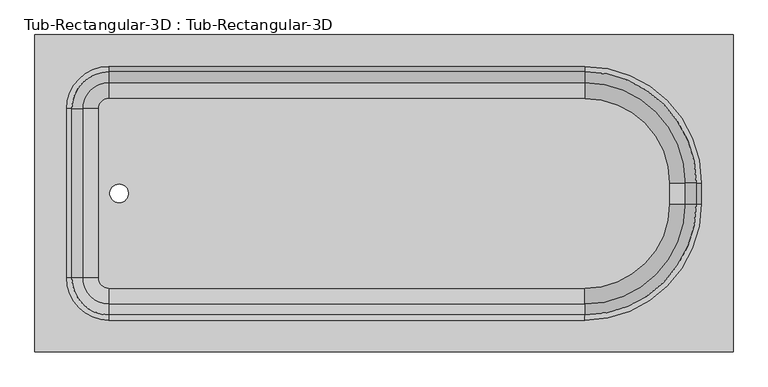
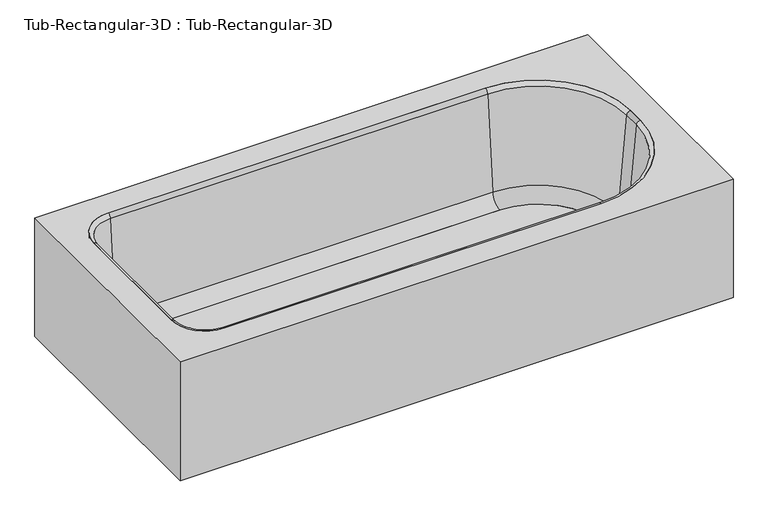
"""IFC4 building model written with IfcOpenShell, lengths in millimetres: flow terminal geometry, Tub-Rectangular-3D : Tub-Rectangular-3D."""

from ifc_helpers import new_model, si_unit, point, frame, frame_2d, origin, place, context, project, spatial, polyline, circle_curve, ellipse_curve, trimmed, segment, composite_curve, outline, extrude, source, transform, mapped, element, save
from ifc_brep_helpers import plane_surface, cylinder_surface, revolved_surface, advanced_brep


def tub_rectangular_3d_tub_rectangular_3d_2253513b(model_context):
    return source(origin(), model_context, "Body", "SolidModel", [
        advanced_brep(
        [(565.7970313, -859.0, 381.0), (565.7970313, -97.0, 381.0), (-1110.6029687, -97.0, 381.0), (-1110.6029687, -859.0, 381.0), (-932.8029687, -782.8, 381.0), (-1034.4029687, -681.2, 381.0), (-1034.4029687, -274.8, 381.0), (-932.8029687, -173.2, 381.0), (210.1970313, -173.2, 381.0), (489.5970313, -452.6, 381.0), (489.5970313, -503.4, 381.0), (210.1970313, -782.8, 381.0), (546.7470313, -839.95, 361.95), (-1091.5529687, -839.95, 361.95), (-1091.5529687, -116.05, 361.95), (546.7470313, -116.05, 361.95), (-932.8029687, -782.8, 361.95), (210.1970313, -782.8, 361.95), (489.5970313, -503.4, 361.95), (489.5970313, -452.6, 361.95), (210.1970313, -173.2, 361.95), (-932.8029687, -173.2, 361.95), (-1034.4029687, -274.8, 361.95), (-1034.4029687, -681.2, 361.95), (-1110.6029687, -859.0, 0.0), (565.7970313, -859.0, 0.0), (-1110.6029687, -97.0, 0.0), (565.7970313, -97.0, 0.0), (546.7470313, -839.95, 0.0), (546.7470313, -116.05, 0.0), (-1091.5529687, -116.05, 0.0), (-1091.5529687, -839.95, 0.0)],
        [
            (0, 1),
            (1, 2),
            (2, 3),
            (3, 0),
            (4, 5, circle_curve(frame((-932.8029687, -681.2, 381.0), z_axis=(0.0, 0.0, -1.0), x_axis=(0.0, -1.0, 0.0)), 101.6)),
            (5, 6),
            (6, 7, circle_curve(frame((-932.8029687, -274.8, 381.0), z_axis=(0.0, 0.0, -1.0), x_axis=(0.0, -1.0, 0.0)), 101.6)),
            (7, 8),
            (8, 9, circle_curve(frame((210.1970313, -452.6, 381.0), z_axis=(0.0, 0.0, -1.0), x_axis=(0.0, -1.0, 0.0)), 279.4)),
            (9, 10),
            (10, 11, circle_curve(frame((210.1970313, -503.4, 381.0), z_axis=(0.0, 0.0, -1.0), x_axis=(0.0, -1.0, 0.0)), 279.4)),
            (11, 4),
            (12, 13),
            (13, 14),
            (14, 15),
            (15, 12),
            (16, 17),
            (17, 18, circle_curve(frame((210.1970313, -503.4, 361.95), z_axis=(0.0, 0.0, 1.0), x_axis=(0.0, -1.0, 0.0)), 279.4)),
            (18, 19),
            (19, 20, circle_curve(frame((210.1970313, -452.6, 361.95), z_axis=(0.0, 0.0, 1.0), x_axis=(0.0, -1.0, 0.0)), 279.4)),
            (20, 21),
            (21, 22, circle_curve(frame((-932.8029687, -274.8, 361.95), z_axis=(0.0, 0.0, 1.0), x_axis=(0.0, -1.0, 0.0)), 101.6)),
            (22, 23),
            (23, 16, circle_curve(frame((-932.8029687, -681.2, 361.95), z_axis=(0.0, 0.0, 1.0), x_axis=(0.0, -1.0, 0.0)), 101.6)),
            (3, 24),
            (24, 25),
            (25, 0),
            (2, 26),
            (26, 24),
            (1, 27),
            (27, 26),
            (25, 27),
            (11, 17),
            (16, 4),
            (10, 18),
            (9, 19),
            (8, 20),
            (7, 21),
            (6, 22),
            (5, 23),
            (28, 29),
            (29, 30),
            (30, 31),
            (31, 28),
            (28, 12),
            (15, 29),
            (14, 30),
            (13, 31),
        ],
        [
            plane_surface(frame((-1110.6029687, -859.0, 381.0), z_axis=(0.0, 0.0, 1.0), x_axis=(-1.0, 0.0, 0.0))),
            plane_surface(frame((-1110.6029687, -859.0, 361.95), z_axis=(0.0, 0.0, -1.0), x_axis=(1.0, 0.0, 0.0))),
            plane_surface(frame((565.7970313, -859.0, 381.0), z_axis=(0.0, -1.0, 0.0), x_axis=(0.0, 0.0, -1.0))),
            plane_surface(frame((-1110.6029687, -859.0, 381.0), z_axis=(-1.0, 0.0, 0.0), x_axis=(0.0, 0.0, -1.0))),
            plane_surface(frame((-1110.6029687, -97.0, 381.0), z_axis=(0.0, 1.0, 0.0), x_axis=(0.0, 0.0, -1.0))),
            plane_surface(frame((565.7970313, -97.0, 381.0), z_axis=(1.0, 0.0, 0.0), x_axis=(0.0, 0.0, -1.0))),
            plane_surface(frame((-932.8029687, -782.8, 381.0), z_axis=(0.0, 1.0, 0.0), x_axis=(0.0, 0.0, -1.0))),
            revolved_surface(polyline([(210.1970313, -782.8, 361.95), (210.1970313, -782.8, 381.0)]), (210.1970313, -503.4, 381.0), (0.0, 0.0, -1.0)),
            plane_surface(frame((489.5970313, -503.4, 381.0), z_axis=(-1.0, 0.0, 0.0), x_axis=(0.0, 0.0, -1.0))),
            revolved_surface(polyline([(210.1970313, -732.0, 361.95), (210.1970313, -732.0, 381.0)]), (210.1970313, -452.6, 381.0), (0.0, 0.0, -1.0)),
            plane_surface(frame((210.1970313, -173.2, 381.0), z_axis=(0.0, -1.0, 0.0), x_axis=(0.0, 0.0, -1.0))),
            revolved_surface(polyline([(-932.8029687, -376.4, 361.95), (-932.8029687, -376.4, 381.0)]), (-932.8029687, -274.8, 381.0), (0.0, 0.0, -1.0)),
            plane_surface(frame((-1034.4029687, -274.8, 381.0), z_axis=(1.0, 0.0, 0.0), x_axis=(0.0, 0.0, -1.0))),
            revolved_surface(polyline([(-932.8029687, -782.8000000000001, 361.95), (-932.8029687, -782.8000000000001, 381.0)]), (-932.8029687, -681.2, 381.0), (0.0, 0.0, -1.0)),
            plane_surface(frame((-1110.6029687, -859.0, 0.0), z_axis=(0.0, 0.0, -1.0), x_axis=(1.0, 0.0, 0.0))),
            plane_surface(frame((546.7470313, -839.95, 361.95), z_axis=(-1.0, 0.0, 0.0), x_axis=(0.0, 0.0, -1.0))),
            plane_surface(frame((546.7470313, -116.05, 361.95), z_axis=(0.0, -1.0, 0.0), x_axis=(0.0, 0.0, -1.0))),
            plane_surface(frame((-1091.5529687, -116.05, 361.95), z_axis=(1.0, 0.0, 0.0), x_axis=(0.0, 0.0, -1.0))),
            plane_surface(frame((-1091.5529687, -839.95, 361.95), z_axis=(0.0, 1.0, 0.0), x_axis=(0.0, 0.0, -1.0))),
        ],
        [
            (0, [[1, 2, 3, 4], [5, 6, 7, 8, 9, 10, 11, 12]]),
            (1, [[13, 14, 15, 16], [17, 18, 19, 20, 21, 22, 23, 24]]),
            (2, [[25, 26, 27, -4]]),
            (3, [[28, 29, -25, -3]]),
            (4, [[30, 31, -28, -2]]),
            (5, [[32, -30, -1, -27]]),
            (6, [[33, -17, 34, -12]]),
            (7, [[35, -18, -33, -11]]),
            (8, [[36, -19, -35, -10]]),
            (9, [[37, -20, -36, -9]]),
            (10, [[38, -21, -37, -8]]),
            (11, [[39, -22, -38, -7]]),
            (12, [[40, -23, -39, -6]]),
            (13, [[-34, -24, -40, -5]]),
            (14, [[-26, -29, -31, -32], [41, 42, 43, 44]]),
            (15, [[45, -16, 46, -41]]),
            (16, [[-46, -15, 47, -42]]),
            (17, [[-47, -14, 48, -43]]),
            (18, [[-48, -13, -45, -44]]),
        ],
    ),
        extrude(outline(composite_curve([segment(polyline([(210.1970313, -706.1964741), (-932.8029687, -706.1964741)]), True, "CONTINUOUS"), segment(trimmed(circle_curve(frame_2d((-932.8029687, -681.2)), 24.9964741), [point((-932.8029687, -706.1964741))], [point((-957.7994428, -681.2))], False, "CARTESIAN"), True, "CONTINUOUS"), segment(polyline([(-957.7994428, -681.2), (-957.7994428, -274.8)]), True, "CONTINUOUS"), segment(trimmed(circle_curve(frame_2d((-932.8029687, -274.8)), 24.9964741), [point((-957.7994428, -274.8))], [point((-932.8029687, -249.8035259))], False, "CARTESIAN"), True, "CONTINUOUS"), segment(polyline([(-932.8029687, -249.8035259), (210.1970313, -249.8035259)]), True, "CONTINUOUS"), segment(trimmed(circle_curve(frame_2d((210.1970313, -452.6)), 202.7964741), [point((210.1970313, -249.8035259))], [point((412.9935054, -452.6))], False, "CARTESIAN"), True, "CONTINUOUS"), segment(polyline([(412.9935054, -452.6), (412.9935054, -503.4)]), True, "CONTINUOUS"), segment(trimmed(circle_curve(frame_2d((210.1970313, -503.4)), 202.7964741), [point((412.9935054, -503.4))], [point((210.1970313, -706.1964741))], False, "CARTESIAN"), True, "CONTINUOUS")], self_intersect=False), holes=[composite_curve([segment(trimmed(circle_curve(frame_2d((-908.510206, -478.0)), 22.225), [point((-908.510206, -500.225))], [point((-908.510206, -455.775))], True, "CARTESIAN"), True, "CONTINUOUS"), segment(trimmed(circle_curve(frame_2d((-908.510206, -478.0)), 22.225), [point((-908.510206, -455.775))], [point((-908.510206, -500.225))], True, "CARTESIAN"), True, "CONTINUOUS")], self_intersect=False)]), frame((0.0, 0.0, 16.863573), z_axis=(0.0, 0.0, 1.0), x_axis=(1.0, 0.0, 0.0)), (0.0, 0.0, 1.0), 19.05),
        advanced_brep(
        [(-995.7544608, -681.2, 70.6929392), (-1021.9249722, -681.2, 369.8232535), (-932.8029687, -770.3220035, 369.8232535), (-932.8029687, -744.1514921, 70.6929392), (-957.7994428, -681.2, 35.913573), (-932.8029687, -706.1964741, 35.913573), (-957.7994428, -681.2, 16.863573), (-932.8029687, -706.1964741, 16.863573), (-1034.4029687, -681.2, 16.863573), (-932.8029687, -782.8, 16.863573), (-1034.4029687, -681.2, 381.0), (-932.8029687, -782.8, 381.0), (-995.7544608, -274.8, 70.6929392), (-1021.9249722, -274.8, 369.8232535), (-957.7994428, -274.8, 35.913573), (-957.7994428, -274.8, 16.863573), (-1034.4029687, -274.8, 16.863573), (-1034.4029687, -274.8, 381.0), (-932.8029687, -211.8485079, 70.6929392), (-932.8029687, -185.6779965, 369.8232535), (-932.8029687, -249.8035259, 35.913573), (-932.8029687, -249.8035259, 16.863573), (-932.8029687, -173.2, 16.863573), (-932.8029687, -173.2, 381.0), (210.1970313, -211.8485079, 70.6929392), (210.1970313, -185.6779965, 369.8232535), (210.1970313, -249.8035259, 35.913573), (210.1970313, -249.8035259, 16.863573), (210.1970313, -173.2, 16.863573), (210.1970313, -173.2, 381.0), (450.9485234, -452.6, 70.6929392), (477.1190348, -452.6, 369.8232535), (412.9935054, -452.6, 35.913573), (412.9935054, -452.6, 16.863573), (489.5970313, -452.6, 16.863573), (489.5970313, -452.6, 381.0), (450.9485234, -503.4, 70.6929392), (477.1190348, -503.4, 369.8232535), (412.9935054, -503.4, 35.913573), (412.9935054, -503.4, 16.863573), (489.5970313, -503.4, 16.863573), (489.5970313, -503.4, 381.0), (210.1970313, -744.1514921, 70.6929392), (210.1970313, -770.3220035, 369.8232535), (210.1970313, -706.1964741, 35.913573), (210.1970313, -706.1964741, 16.863573), (210.1970313, -782.8, 16.863573), (210.1970313, -782.8, 381.0)],
        [
            (0, 1),
            (1, 2, circle_curve(frame((-932.8029687, -681.2, 369.8232535), z_axis=(0.0, 0.0, 1.0), x_axis=(0.0, -1.0, 0.0)), 89.1220035)),
            (2, 3),
            (3, 0, circle_curve(frame((-932.8029687, -681.2, 70.6929392), z_axis=(0.0, 0.0, -1.0), x_axis=(0.0, -1.0, 0.0)), 62.9514921)),
            (4, 0, circle_curve(frame((-957.7994428, -681.2, 74.013573), z_axis=(0.0, 1.0, 0.0), x_axis=(1.0, 0.0, 0.0)), 38.1)),
            (3, 5, circle_curve(frame((-932.8029687, -706.1964741, 74.013573), z_axis=(1.0, 0.0, 0.0), x_axis=(0.0, 1.0, 0.0)), 38.1)),
            (5, 4, circle_curve(frame((-932.8029687, -681.2, 35.913573), z_axis=(0.0, 0.0, -1.0), x_axis=(0.0, -1.0, 0.0)), 24.9964741)),
            (6, 4),
            (5, 7),
            (7, 6, circle_curve(frame((-932.8029687, -681.2, 16.863573), z_axis=(0.0, 0.0, -1.0), x_axis=(0.0, -1.0, 0.0)), 24.9964741)),
            (8, 6),
            (7, 9),
            (9, 8, circle_curve(frame((-932.8029687, -681.2, 16.863573), z_axis=(0.0, 0.0, -1.0), x_axis=(0.0, -1.0, 0.0)), 101.6)),
            (10, 8),
            (9, 11),
            (11, 10, circle_curve(frame((-932.8029687, -681.2, 381.0), z_axis=(0.0, 0.0, -1.0), x_axis=(0.0, -1.0, 0.0)), 101.6)),
            (1, 10, circle_curve(frame((-1034.4029687, -681.2, 368.4462547), z_axis=(0.0, -1.0, 0.0), x_axis=(1.0, 0.0, 0.0)), 12.5537453)),
            (11, 2, circle_curve(frame((-932.8029687, -782.8, 368.4462547), z_axis=(-1.0, 0.0, 0.0), x_axis=(0.0, 1.0, 0.0)), 12.5537453)),
            (0, 12),
            (12, 13),
            (13, 1),
            (4, 14),
            (14, 12, circle_curve(frame((-957.7994428, -274.8, 74.013573), z_axis=(0.0, 1.0, 0.0), x_axis=(1.0, 0.0, 0.0)), 38.1)),
            (6, 15),
            (15, 14),
            (8, 16),
            (16, 15),
            (10, 17),
            (17, 16),
            (13, 17, circle_curve(frame((-1034.4029687, -274.8, 368.4462547), z_axis=(0.0, -1.0, 0.0), x_axis=(1.0, 0.0, 0.0)), 12.5537453)),
            (18, 19),
            (19, 13, circle_curve(frame((-932.8029687, -274.8, 369.8232535), z_axis=(0.0, 0.0, 1.0), x_axis=(-1.0, 0.0, 0.0)), 89.1220035)),
            (12, 18, circle_curve(frame((-932.8029687, -274.8, 70.6929392), z_axis=(0.0, 0.0, -1.0), x_axis=(-1.0, 0.0, 0.0)), 62.9514921)),
            (20, 18, circle_curve(frame((-932.8029687, -249.8035259, 74.013573), z_axis=(1.0, 0.0, 0.0), x_axis=(0.0, -1.0, 0.0)), 38.1)),
            (14, 20, circle_curve(frame((-932.8029687, -274.8, 35.913573), z_axis=(0.0, 0.0, -1.0), x_axis=(-1.0, 0.0, 0.0)), 24.9964741)),
            (21, 20),
            (15, 21, circle_curve(frame((-932.8029687, -274.8, 16.863573), z_axis=(0.0, 0.0, -1.0), x_axis=(-1.0, 0.0, 0.0)), 24.9964741)),
            (22, 21),
            (16, 22, circle_curve(frame((-932.8029687, -274.8, 16.863573), z_axis=(0.0, 0.0, -1.0), x_axis=(-1.0, 0.0, 0.0)), 101.6)),
            (23, 22),
            (17, 23, circle_curve(frame((-932.8029687, -274.8, 381.0), z_axis=(0.0, 0.0, -1.0), x_axis=(-1.0, 0.0, 0.0)), 101.6)),
            (19, 23, circle_curve(frame((-932.8029687, -173.2, 368.4462547), z_axis=(-1.0, 0.0, 0.0), x_axis=(0.0, -1.0, 0.0)), 12.5537453)),
            (18, 24),
            (24, 25),
            (25, 19),
            (20, 26),
            (26, 24, circle_curve(frame((210.1970313, -249.8035259, 74.013573), z_axis=(1.0, 0.0, 0.0), x_axis=(0.0, -1.0, 0.0)), 38.1)),
            (21, 27),
            (27, 26),
            (22, 28),
            (28, 27),
            (23, 29),
            (29, 28),
            (25, 29, circle_curve(frame((210.1970313, -173.2, 368.4462547), z_axis=(-1.0, 0.0, 0.0), x_axis=(0.0, -1.0, 0.0)), 12.5537453)),
            (30, 31),
            (31, 25, circle_curve(frame((210.1970313, -452.6, 369.8232535), z_axis=(0.0, 0.0, 1.0), x_axis=(0.0, 1.0, 0.0)), 266.9220035)),
            (24, 30, circle_curve(frame((210.1970313, -452.6, 70.6929392), z_axis=(0.0, 0.0, -1.0), x_axis=(0.0, 1.0, 0.0)), 240.7514921)),
            (32, 30, circle_curve(frame((412.9935054, -452.6, 74.013573), z_axis=(0.0, -1.0, 0.0), x_axis=(-1.0, 0.0, 0.0)), 38.1)),
            (26, 32, circle_curve(frame((210.1970313, -452.6, 35.913573), z_axis=(0.0, 0.0, -1.0), x_axis=(0.0, 1.0, 0.0)), 202.7964741)),
            (33, 32),
            (27, 33, circle_curve(frame((210.1970313, -452.6, 16.863573), z_axis=(0.0, 0.0, -1.0), x_axis=(0.0, 1.0, 0.0)), 202.7964741)),
            (34, 33),
            (28, 34, circle_curve(frame((210.1970313, -452.6, 16.863573), z_axis=(0.0, 0.0, -1.0), x_axis=(0.0, 1.0, 0.0)), 279.4)),
            (35, 34),
            (29, 35, circle_curve(frame((210.1970313, -452.6, 381.0), z_axis=(0.0, 0.0, -1.0), x_axis=(0.0, 1.0, 0.0)), 279.4)),
            (31, 35, circle_curve(frame((489.5970313, -452.6, 368.4462547), z_axis=(0.0, 1.0, 0.0), x_axis=(-1.0, 0.0, 0.0)), 12.5537453)),
            (30, 36),
            (36, 37),
            (37, 31),
            (32, 38),
            (38, 36, circle_curve(frame((412.9935054, -503.4, 74.013573), z_axis=(0.0, -1.0, 0.0), x_axis=(-1.0, 0.0, 0.0)), 38.1)),
            (33, 39),
            (39, 38),
            (34, 40),
            (40, 39),
            (35, 41),
            (41, 40),
            (37, 41, circle_curve(frame((489.5970313, -503.4, 368.4462547), z_axis=(0.0, 1.0, 0.0), x_axis=(-1.0, 0.0, 0.0)), 12.5537453)),
            (42, 43),
            (43, 37, circle_curve(frame((210.1970313, -503.4, 369.8232535), z_axis=(0.0, 0.0, 1.0), x_axis=(1.0, 0.0, 0.0)), 266.9220035)),
            (36, 42, circle_curve(frame((210.1970313, -503.4, 70.6929392), z_axis=(0.0, 0.0, -1.0), x_axis=(1.0, 0.0, 0.0)), 240.7514921)),
            (44, 42, circle_curve(frame((210.1970313, -706.1964741, 74.013573), z_axis=(-1.0, 0.0, 0.0), x_axis=(0.0, 1.0, 0.0)), 38.1)),
            (38, 44, circle_curve(frame((210.1970313, -503.4, 35.913573), z_axis=(0.0, 0.0, -1.0), x_axis=(1.0, 0.0, 0.0)), 202.7964741)),
            (45, 44),
            (39, 45, circle_curve(frame((210.1970313, -503.4, 16.863573), z_axis=(0.0, 0.0, -1.0), x_axis=(1.0, 0.0, 0.0)), 202.7964741)),
            (46, 45),
            (40, 46, circle_curve(frame((210.1970313, -503.4, 16.863573), z_axis=(0.0, 0.0, -1.0), x_axis=(1.0, 0.0, 0.0)), 279.4)),
            (47, 46),
            (41, 47, circle_curve(frame((210.1970313, -503.4, 381.0), z_axis=(0.0, 0.0, -1.0), x_axis=(1.0, 0.0, 0.0)), 279.4)),
            (43, 47, circle_curve(frame((210.1970313, -782.8, 368.4462547), z_axis=(1.0, 0.0, 0.0), x_axis=(0.0, 1.0, 0.0)), 12.5537453)),
            (42, 3),
            (2, 43),
            (44, 5),
            (45, 7),
            (46, 9),
            (47, 11),
        ],
        [
            revolved_surface(polyline([(-932.8029687, -770.3220035, 369.8232535), (-932.8029687, -744.1514921, 70.6929392)]), (-932.8029687, -681.2, 381.0), (0.0, 0.0, 1.0)),
            revolved_surface(trimmed(ellipse_curve(frame((-932.8029687, -706.1964741, 74.013573), z_axis=(1.0, 0.0, 0.0), x_axis=(0.0, 1.0, 0.0)), 38.1, 38.1), [point((-932.8029687, -744.1514921, 70.6929392))], [point((-932.8029687, -706.1964741, 35.913573))], True, "CARTESIAN"), (-932.8029687, -681.2, 381.0), (0.0, 0.0, 1.0)),
            revolved_surface(polyline([(-932.8029687, -706.1964741, 35.913572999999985), (-932.8029687, -706.1964741, 16.863572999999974)]), (-932.8029687, -681.2, 381.0), (0.0, 0.0, 1.0)),
            plane_surface(frame((-932.8029687, -681.2, 16.863573), z_axis=(0.0, 0.0, -1.0), x_axis=(0.0, -1.0, 0.0))),
            cylinder_surface(frame((-932.8029687, -681.2, 381.0), z_axis=(0.0, 0.0, 1.0), x_axis=(0.0, -1.0, 0.0)), 101.6),
            revolved_surface(trimmed(ellipse_curve(frame((-932.8029687, -782.8, 368.4462547), z_axis=(-1.0, 0.0, 0.0), x_axis=(0.0, 1.0, 0.0)), 12.5537453, 12.5537453), [point((-932.8029687, -782.8, 381.0))], [point((-932.8029687, -770.3220035, 369.8232535))], True, "CARTESIAN"), (-932.8029687, -681.2, 381.0), (0.0, 0.0, 1.0)),
            plane_surface(frame((-1021.9249722, -681.2, 369.8232535), z_axis=(0.9961946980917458, 0.0, 0.08715574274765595), x_axis=(0.0, 1.0, 0.0))),
            revolved_surface(polyline([(-919.6994427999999, -274.8, 74.013573), (-919.6994427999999, -681.2, 74.013573)]), (-957.7994428, -681.2, 74.013573), (0.0, 1.0, 0.0)),
            plane_surface(frame((-957.7994428, -681.2, 35.913573), z_axis=(1.0, 0.0, 0.0), x_axis=(0.0, 1.0, 0.0))),
            plane_surface(frame((-957.7994428, -681.2, 16.863573), z_axis=(0.0, 0.0, -1.0), x_axis=(0.0, 1.0, 0.0))),
            plane_surface(frame((-1034.4029687, -681.2, 16.863573), z_axis=(-1.0, 0.0, 0.0), x_axis=(0.0, 1.0, 0.0))),
            cylinder_surface(frame((-1034.4029687, -681.2, 368.4462547), z_axis=(0.0, -1.0, 0.0), x_axis=(1.0, 0.0, 0.0)), 12.5537453),
            revolved_surface(polyline([(-1021.9249722, -274.8, 369.8232535), (-995.7544608, -274.8, 70.6929392)]), (-932.8029687, -274.8, 381.0), (0.0, 0.0, 1.0)),
            revolved_surface(trimmed(ellipse_curve(frame((-957.7994428, -274.8, 74.013573), z_axis=(0.0, -1.0, 0.0), x_axis=(1.0, 0.0, 0.0)), 38.1, 38.1), [point((-995.7544608, -274.8, 70.6929392))], [point((-957.7994428, -274.8, 35.913573))], True, "CARTESIAN"), (-932.8029687, -274.8, 381.0), (0.0, 0.0, 1.0)),
            revolved_surface(polyline([(-957.7994428, -274.8, 35.913572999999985), (-957.7994428, -274.8, 16.863572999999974)]), (-932.8029687, -274.8, 381.0), (0.0, 0.0, 1.0)),
            plane_surface(frame((-932.8029687, -274.8, 16.863573), z_axis=(0.0, 0.0, -1.0), x_axis=(-1.0, 0.0, 0.0))),
            cylinder_surface(frame((-932.8029687, -274.8, 381.0), z_axis=(0.0, 0.0, 1.0), x_axis=(-1.0, 0.0, 0.0)), 101.6),
            revolved_surface(trimmed(ellipse_curve(frame((-1034.4029687, -274.8, 368.4462547), z_axis=(0.0, 1.0, 0.0), x_axis=(1.0, 0.0, 0.0)), 12.5537453, 12.5537453), [point((-1034.4029687, -274.8, 381.0))], [point((-1021.9249722, -274.8, 369.8232535))], True, "CARTESIAN"), (-932.8029687, -274.8, 381.0), (0.0, 0.0, 1.0)),
            plane_surface(frame((-932.8029687, -185.6779965, 369.8232535), z_axis=(0.0, -0.9961946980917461, 0.08715574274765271), x_axis=(1.0, 0.0, 0.0))),
            revolved_surface(polyline([(210.19703130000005, -287.90352590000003, 74.013573), (-932.8029687, -287.90352590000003, 74.013573)]), (-932.8029687, -249.8035259, 74.013573), (1.0, 0.0, 0.0)),
            plane_surface(frame((-932.8029687, -249.8035259, 35.913573), z_axis=(0.0, -1.0, 0.0), x_axis=(1.0, 0.0, 0.0))),
            plane_surface(frame((-932.8029687, -249.8035259, 16.863573), z_axis=(0.0, 0.0, -1.0), x_axis=(1.0, 0.0, 0.0))),
            plane_surface(frame((-932.8029687, -173.2, 16.863573), z_axis=(0.0, 1.0, 0.0), x_axis=(1.0, 0.0, 0.0))),
            cylinder_surface(frame((-932.8029687, -173.2, 368.4462547), z_axis=(-1.0, 0.0, 0.0), x_axis=(0.0, -1.0, 0.0)), 12.5537453),
            revolved_surface(polyline([(210.1970313, -185.6779965, 369.8232535), (210.1970313, -211.8485079, 70.6929392)]), (210.1970313, -452.6, 381.0), (0.0, 0.0, 1.0)),
            revolved_surface(trimmed(ellipse_curve(frame((210.1970313, -249.8035259, 74.013573), z_axis=(-1.0, 0.0, 0.0), x_axis=(0.0, -1.0, 0.0)), 38.1, 38.1), [point((210.1970313, -211.8485079, 70.6929392))], [point((210.1970313, -249.8035259, 35.913573))], True, "CARTESIAN"), (210.1970313, -452.6, 381.0), (0.0, 0.0, 1.0)),
            revolved_surface(polyline([(210.1970313, -249.8035259, 35.913572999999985), (210.1970313, -249.8035259, 16.863572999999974)]), (210.1970313, -452.6, 381.0), (0.0, 0.0, 1.0)),
            plane_surface(frame((210.1970313, -452.6, 16.863573), z_axis=(0.0, 0.0, -1.0), x_axis=(0.0, 1.0, 0.0))),
            cylinder_surface(frame((210.1970313, -452.6, 381.0), z_axis=(0.0, 0.0, 1.0), x_axis=(0.0, 1.0, 0.0)), 279.4),
            revolved_surface(trimmed(ellipse_curve(frame((210.1970313, -173.2, 368.4462547), z_axis=(1.0, 0.0, 0.0), x_axis=(0.0, -1.0, 0.0)), 12.5537453, 12.5537453), [point((210.1970313, -173.2, 381.0))], [point((210.1970313, -185.6779965, 369.8232535))], True, "CARTESIAN"), (210.1970313, -452.6, 381.0), (0.0, 0.0, 1.0)),
            plane_surface(frame((477.1190348, -452.6, 369.8232535), z_axis=(-0.9961946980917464, 0.0, 0.08715574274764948), x_axis=(0.0, -1.0, 0.0))),
            revolved_surface(polyline([(374.8935054, -503.4, 74.013573), (374.8935054, -452.6, 74.013573)]), (412.9935054, -452.6, 74.013573), (0.0, -1.0, 0.0)),
            plane_surface(frame((412.9935054, -452.6, 35.913573), z_axis=(-1.0, 0.0, 0.0), x_axis=(0.0, -1.0, 0.0))),
            plane_surface(frame((412.9935054, -452.6, 16.863573), z_axis=(0.0, 0.0, -1.0), x_axis=(0.0, -1.0, 0.0))),
            plane_surface(frame((489.5970313, -452.6, 16.863573), z_axis=(1.0, 0.0, 0.0), x_axis=(0.0, -1.0, 0.0))),
            cylinder_surface(frame((489.5970313, -452.6, 368.4462547), z_axis=(0.0, 1.0, 0.0), x_axis=(-1.0, 0.0, 0.0)), 12.5537453),
            revolved_surface(polyline([(477.1190348, -503.4, 369.8232535), (450.9485234, -503.4, 70.6929392)]), (210.1970313, -503.4, 381.0), (0.0, 0.0, 1.0)),
            revolved_surface(trimmed(ellipse_curve(frame((412.9935054, -503.4, 74.013573), z_axis=(0.0, 1.0, 0.0), x_axis=(-1.0, 0.0, 0.0)), 38.1, 38.1), [point((450.9485234, -503.4, 70.6929392))], [point((412.9935054, -503.4, 35.913573))], True, "CARTESIAN"), (210.1970313, -503.4, 381.0), (0.0, 0.0, 1.0)),
            revolved_surface(polyline([(412.9935054, -503.4, 35.913572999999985), (412.9935054, -503.4, 16.863572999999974)]), (210.1970313, -503.4, 381.0), (0.0, 0.0, 1.0)),
            plane_surface(frame((210.1970313, -503.4, 16.863573), z_axis=(0.0, 0.0, -1.0), x_axis=(1.0, 0.0, 0.0))),
            cylinder_surface(frame((210.1970313, -503.4, 381.0), z_axis=(0.0, 0.0, 1.0), x_axis=(1.0, 0.0, 0.0)), 279.4),
            revolved_surface(trimmed(ellipse_curve(frame((489.5970313, -503.4, 368.4462547), z_axis=(0.0, -1.0, 0.0), x_axis=(-1.0, 0.0, 0.0)), 12.5537453, 12.5537453), [point((489.5970313, -503.4, 381.0))], [point((477.1190348, -503.4, 369.8232535))], True, "CARTESIAN"), (210.1970313, -503.4, 381.0), (0.0, 0.0, 1.0)),
            plane_surface(frame((210.1970313, -770.3220035, 369.8232535), z_axis=(0.0, 0.9961946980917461, 0.08715574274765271), x_axis=(-1.0, 0.0, 0.0))),
            revolved_surface(polyline([(-932.8029687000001, -668.0964741, 74.013573), (210.1970313, -668.0964741, 74.013573)]), (210.1970313, -706.1964741, 74.013573), (-1.0, 0.0, 0.0)),
            plane_surface(frame((210.1970313, -706.1964741, 35.913573), z_axis=(0.0, 1.0, 0.0), x_axis=(-1.0, 0.0, 0.0))),
            plane_surface(frame((210.1970313, -706.1964741, 16.863573), z_axis=(0.0, 0.0, -1.0), x_axis=(-1.0, 0.0, 0.0))),
            plane_surface(frame((210.1970313, -782.8, 16.863573), z_axis=(0.0, -1.0, 0.0), x_axis=(-1.0, 0.0, 0.0))),
            cylinder_surface(frame((210.1970313, -782.8, 368.4462547), z_axis=(1.0, 0.0, 0.0), x_axis=(0.0, 1.0, 0.0)), 12.5537453),
        ],
        [
            (0, [[1, 2, 3, 4]]),
            (1, [[5, -4, 6, 7]]),
            (2, [[8, -7, 9, 10]]),
            (3, [[11, -10, 12, 13]]),
            (4, [[14, -13, 15, 16]]),
            (5, [[17, -16, 18, -2]]),
            (6, [[19, 20, 21, -1]]),
            (7, [[22, 23, -19, -5]]),
            (8, [[24, 25, -22, -8]]),
            (9, [[26, 27, -24, -11]]),
            (10, [[28, 29, -26, -14]]),
            (11, [[-21, 30, -28, -17]]),
            (12, [[31, 32, -20, 33]]),
            (13, [[34, -33, -23, 35]]),
            (14, [[36, -35, -25, 37]]),
            (15, [[38, -37, -27, 39]]),
            (16, [[40, -39, -29, 41]]),
            (17, [[42, -41, -30, -32]]),
            (18, [[43, 44, 45, -31]]),
            (19, [[46, 47, -43, -34]]),
            (20, [[48, 49, -46, -36]]),
            (21, [[50, 51, -48, -38]]),
            (22, [[52, 53, -50, -40]]),
            (23, [[-45, 54, -52, -42]]),
            (24, [[55, 56, -44, 57]]),
            (25, [[58, -57, -47, 59]]),
            (26, [[60, -59, -49, 61]]),
            (27, [[62, -61, -51, 63]]),
            (28, [[64, -63, -53, 65]]),
            (29, [[66, -65, -54, -56]]),
            (30, [[67, 68, 69, -55]]),
            (31, [[70, 71, -67, -58]]),
            (32, [[72, 73, -70, -60]]),
            (33, [[74, 75, -72, -62]]),
            (34, [[76, 77, -74, -64]]),
            (35, [[-69, 78, -76, -66]]),
            (36, [[79, 80, -68, 81]]),
            (37, [[82, -81, -71, 83]]),
            (38, [[84, -83, -73, 85]]),
            (39, [[86, -85, -75, 87]]),
            (40, [[88, -87, -77, 89]]),
            (41, [[90, -89, -78, -80]]),
            (42, [[91, -3, 92, -79]]),
            (43, [[93, -6, -91, -82]]),
            (44, [[94, -9, -93, -84]]),
            (45, [[95, -12, -94, -86]]),
            (46, [[96, -15, -95, -88]]),
            (47, [[-92, -18, -96, -90]]),
        ],
    ),
    ])


if __name__ == "__main__":
    model = new_model("IFC4")
    model_context = context("Model", 3, world=origin())
    ifc_project = project(units=[si_unit("LENGTHUNIT", "METRE", prefix="MILLI")], contexts=[model_context])
    site = spatial("IfcSite", under=ifc_project)
    building = spatial("IfcBuilding", under=site)
    placement = place(None, origin())
    tub_rectangular_3d_tub_rectangular_3d_shape = tub_rectangular_3d_tub_rectangular_3d_2253513b(model_context)
    element("IfcFlowTerminal", 1, ObjectType="Tub-Rectangular-3D : Tub-Rectangular-3D", at=placement, inside=building, context=model_context, shape_type="MappedRepresentation", body=[
        mapped(tub_rectangular_3d_tub_rectangular_3d_shape, transform((0.0, 0.0, 0.0), x_axis=(1.0, 0.0, 0.0), y_axis=(0.0, 1.0, 0.0), z_axis=(0.0, 0.0, 1.0))),
    ])
    save(model, "model.ifc")
